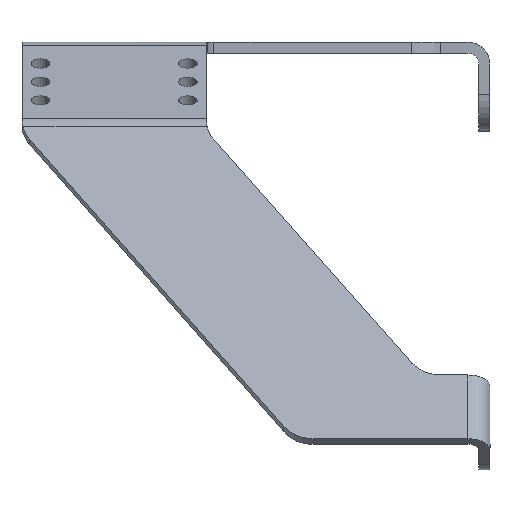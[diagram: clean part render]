
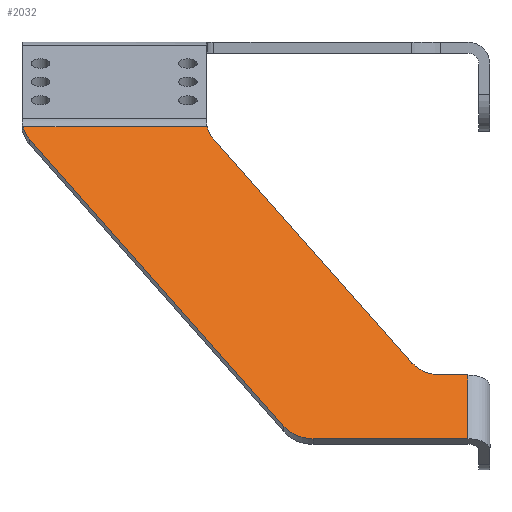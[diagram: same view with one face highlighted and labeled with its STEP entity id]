
A CAD part, left-side view. The second image highlights one B-rep face of the part: STEP entity #2032.
In plain terms, the highlighted planar face has unit normal (-0.866, 0, 0.5).
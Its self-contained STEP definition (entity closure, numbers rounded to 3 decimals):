
#268=CARTESIAN_POINT('',(-35.15,45.482,-42.5));
#269=VERTEX_POINT('',#268);
#482=CARTESIAN_POINT('',(-35.15,145.482,-42.5));
#483=VERTEX_POINT('',#482);
#537=CARTESIAN_POINT('',(-35.15,45.482,-42.5));
#538=DIRECTION('',(0.0,1.0,0.0));
#539=VECTOR('',#538,100.);
#540=LINE('',#537,#539);
#541=EDGE_CURVE('',#269,#483,#540,.T.);
#1950=CARTESIAN_POINT('',(-12.888,2.612,-3.941));
#1951=DIRECTION('',(-0.866,0.0,0.5));
#1952=DIRECTION('',(0.5,0.0,0.866));
#1953=AXIS2_PLACEMENT_3D('',#1950,#1951,#1952);
#1954=PLANE('',#1953);
#1955=ORIENTED_EDGE('',*,*,#541,.T.);
#1956=CARTESIAN_POINT('',(-38.973,141.872,-49.121));
#1957=VERTEX_POINT('',#1956);
#1958=CARTESIAN_POINT('',(-32.888,126.,-38.582));
#1959=DIRECTION('',(0.866,0.0,-0.5));
#1960=DIRECTION('',(0.0,1.0,0.0));
#1961=AXIS2_PLACEMENT_3D('',#1958,#1959,#1960);
#1962=CIRCLE('',#1961,20.0);
#1963=EDGE_CURVE('',#1957,#483,#1962,.T.);
#1964=ORIENTED_EDGE('',*,*,#1963,.F.);
#1965=CARTESIAN_POINT('',(-128.973,3.872,-205.005));
#1966=VERTEX_POINT('',#1965);
#1967=CARTESIAN_POINT('',(-128.973,3.872,-205.005));
#1968=DIRECTION('',(0.397,0.608,0.687));
#1969=VECTOR('',#1968,226.813);
#1970=LINE('',#1967,#1969);
#1971=EDGE_CURVE('',#1966,#1957,#1970,.T.);
#1972=ORIENTED_EDGE('',*,*,#1971,.F.);
#1973=CARTESIAN_POINT('',(-132.888,-12.,-211.787));
#1974=VERTEX_POINT('',#1973);
#1975=CARTESIAN_POINT('',(-122.888,-12.,-194.467));
#1976=DIRECTION('',(0.866,0.,-0.5));
#1977=DIRECTION('',(-0.304,0.794,-0.527));
#1978=AXIS2_PLACEMENT_3D('',#1975,#1976,#1977);
#1979=CIRCLE('',#1978,20.0);
#1980=EDGE_CURVE('',#1974,#1966,#1979,.T.);
#1981=ORIENTED_EDGE('',*,*,#1980,.F.);
#1982=CARTESIAN_POINT('',(-132.888,-96.,-211.787));
#1983=VERTEX_POINT('',#1982);
#1984=CARTESIAN_POINT('',(-132.888,-96.,-211.787));
#1985=DIRECTION('',(0.0,1.0,0.0));
#1986=VECTOR('',#1985,84.);
#1987=LINE('',#1984,#1986);
#1988=EDGE_CURVE('',#1983,#1974,#1987,.T.);
#1989=ORIENTED_EDGE('',*,*,#1988,.F.);
#1990=CARTESIAN_POINT('',(-112.888,-96.,-177.146));
#1991=VERTEX_POINT('',#1990);
#1992=CARTESIAN_POINT('',(-132.888,-96.,-211.787));
#1993=DIRECTION('',(0.5,0.0,0.866));
#1994=VECTOR('',#1993,40.);
#1995=LINE('',#1992,#1994);
#1996=EDGE_CURVE('',#1983,#1991,#1995,.T.);
#1997=ORIENTED_EDGE('',*,*,#1996,.T.);
#1998=CARTESIAN_POINT('',(-112.888,-81.333,-177.146));
#1999=VERTEX_POINT('',#1998);
#2000=CARTESIAN_POINT('',(-112.888,-81.333,-177.146));
#2001=DIRECTION('',(0.0,-1.0,0.0));
#2002=VECTOR('',#2001,14.667);
#2003=LINE('',#2000,#2002);
#2004=EDGE_CURVE('',#1999,#1991,#2003,.T.);
#2005=ORIENTED_EDGE('',*,*,#2004,.F.);
#2006=CARTESIAN_POINT('',(-108.973,-65.461,-170.364));
#2007=VERTEX_POINT('',#2006);
#2008=CARTESIAN_POINT('',(-102.888,-81.333,-159.826));
#2009=DIRECTION('',(-0.866,0.,0.5));
#2010=DIRECTION('',(0.304,-0.794,0.527));
#2011=AXIS2_PLACEMENT_3D('',#2008,#2009,#2010);
#2012=CIRCLE('',#2011,20.0);
#2013=EDGE_CURVE('',#2007,#1999,#2012,.T.);
#2014=ORIENTED_EDGE('',*,*,#2013,.F.);
#2015=CARTESIAN_POINT('',(-38.973,41.872,-49.121));
#2016=VERTEX_POINT('',#2015);
#2017=CARTESIAN_POINT('',(-38.973,41.872,-49.121));
#2018=DIRECTION('',(-0.397,-0.608,-0.687));
#2019=VECTOR('',#2018,176.41);
#2020=LINE('',#2017,#2019);
#2021=EDGE_CURVE('',#2016,#2007,#2020,.T.);
#2022=ORIENTED_EDGE('',*,*,#2021,.F.);
#2023=CARTESIAN_POINT('',(-32.888,26.,-38.582));
#2024=DIRECTION('',(-0.866,0.0,0.5));
#2025=DIRECTION('',(0.0,-1.0,0.0));
#2026=AXIS2_PLACEMENT_3D('',#2023,#2024,#2025);
#2027=CIRCLE('',#2026,20.0);
#2028=EDGE_CURVE('',#269,#2016,#2027,.T.);
#2029=ORIENTED_EDGE('',*,*,#2028,.F.);
#2030=EDGE_LOOP('',(#1955,#1964,#1972,#1981,#1989,#1997,#2005,#2014,#2022,#2029));
#2031=FACE_OUTER_BOUND('',#2030,.T.);
#2032=ADVANCED_FACE('',(#2031),#1954,.T.);
